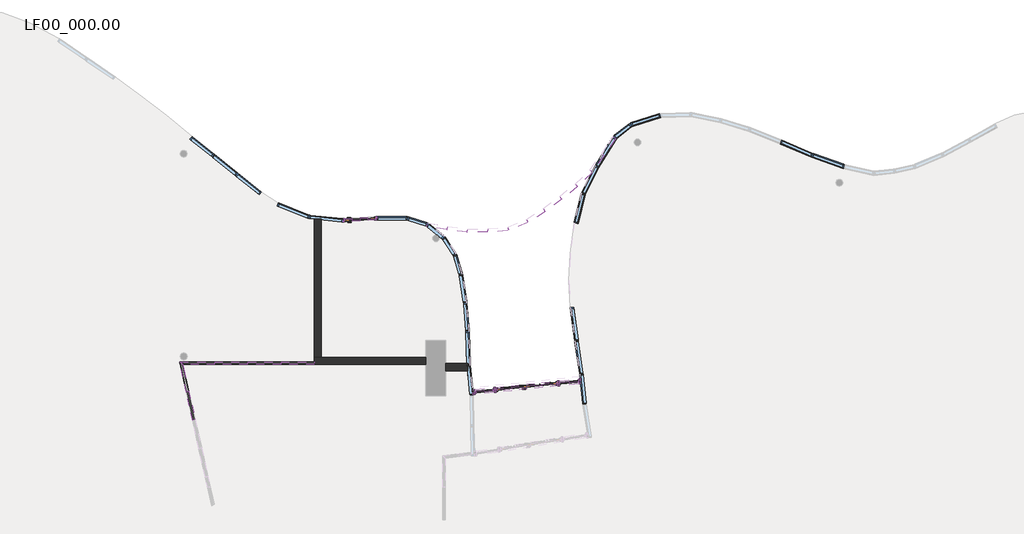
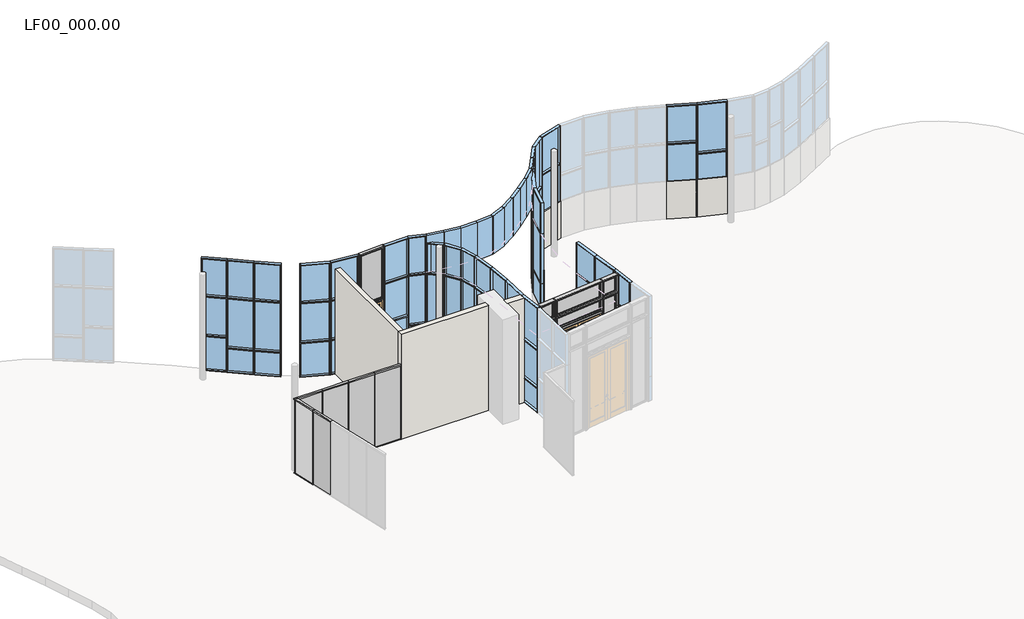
# One storey, part 5 of 8: 43 members, 35 windows, 12 plates, 10 walls, 2 doors.
"""IFC4 building model written with IfcOpenShell, lengths in millimetres."""

from ifc_helpers import new_model, si_unit, origin, origin_with_axes, place, context, project, spatial, polyline, outline, extrude, faceted_brep, transform, mapped, element, save
from components import door_f6d3ca97, al_005_3a442bcf, montante_rettangolare_ac_010x003_4d17a41f, montante_rettangolare_ac_010x003_0dd7de21, montante_rettangolare_ac_010x003_1eb318b9, montante_rettangolare_ac_010x003_ccebbbc4, montante_rettangolare_ac_025x025_ae409ff8, montante_rettangolare_ac_025x025_ba0b5886, montante_rettangolare_ac_025x025_25a4d1a1, montante_rettangolare_ac_025x025_28f09506, montante_rettangolare_ac_025x025_21ed5f5e, montante_rettangolare_ac_025x025_512be482, montante_rettangolare_ac_025x025_d0ddf7e4, montante_rettangolare_ac_025x025_b97b00cb, montante_rettangolare_ac_025x025_7ee202ef, montante_rettangolare_ac_080x010_f14e0e64, montante_rettangolare_ac_080x020_3b7735f9, montante_rettangolare_ac_080x020_327cfd7e, montante_rettangolare_ac_080x020_cddab958, montante_rettangolare_ac_080x050_642f358e, montante_rettangolare_ac_080x050_9c7f8e0c, montante_rettangolare_ac_080x050_c9e07f6a, montante_rettangolare_ac_080x050_cf15316b, al_005_716bf069, al_005_105dd437, al_005_4a535399, al_005_ec5b3190, ve3_036_89044f45, ve3_036_c4dd61af, ve3_036_04a157bd, ve_005_f4ff7d61, ve_005_494df69b, ve_005_5d872f8a, window_1ea6608f, window_a39038a6, window_40431090, window_a7bb458b, window_edb831b2, window_d7734fc0, window_8cf16216, window_26246464, window_36c3ef3e, window_04857959, window_b5501017, window_13306c7d, window_54e6ce9d, window_09fc64a4, window_a744d560, window_dc9eccbe, al_60_92c340f7

model = new_model("IFC4")

# Units and contexts
model_context = context("Model", 3, world=origin())
ifc_project = project(units=[si_unit("LENGTHUNIT", "METRE", prefix="MILLI")], contexts=[model_context])

# Site, building, storey
site = spatial("IfcSite", under=ifc_project)
building = spatial("IfcBuilding", under=site)
storey = spatial("IfcBuildingStorey", under=building, Name="LF00_000.00", Elevation=0.0)

# Doors
placement = place(None, origin())
door_shape = door_f6d3ca97(model_context)
element("IfcDoor", 1, ObjectType="TRP_CP_ARC_PO_2B_PM : AL_VE_005", at=placement, inside=storey, context=model_context, shape_type="MappedRepresentation", body=[
    mapped(door_shape, transform((-83822.5384206, 16644.1727455, 0.0), x_axis=(-0.9946610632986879, -0.10319578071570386, 0.0), y_axis=(0.10319578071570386, -0.9946610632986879, 0.0), z_axis=(0.0, 0.0, 1.0))),
])
al_005_shape = al_005_3a442bcf(model_context)
element("IfcDoor", 2, ObjectType="TRP_CP_ARC_PO_1B_RE : AL_005", at=placement, inside=storey, context=model_context, shape_type="MappedRepresentation", body=[
    mapped(al_005_shape, transform((-88781.3569263, 21621.7366248, 0.0), x_axis=(0.9981772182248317, 0.060350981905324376, 0.0), y_axis=(-0.060350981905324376, 0.9981772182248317, 0.0), z_axis=(0.0, 0.0, 1.0))),
])

# Members
montante_rettangolare_ac_010x003_shape = montante_rettangolare_ac_010x003_4d17a41f(model_context)
element("IfcMember", 3, ObjectType="Montante rettangolare : AC_010x003", at=placement, inside=storey, context=model_context, shape_type="MappedRepresentation", body=[
    mapped(montante_rettangolare_ac_010x003_shape, transform((-88280.7600206, 21652.0033091, 2400.0), x_axis=(0.9981772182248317, 0.060350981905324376, 0.0), y_axis=(0.060350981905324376, -0.9981772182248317, 0.0), z_axis=(0.0, 0.0, -1.0))),
])
element("IfcMember", 4, ObjectType="Montante rettangolare : AC_010x003", at=placement, inside=storey, context=model_context, shape_type="MappedRepresentation", body=[
    mapped(montante_rettangolare_ac_010x003_shape, transform((-89281.9538321, 21591.4699404, 4500.0), x_axis=(-0.9981772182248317, -0.060350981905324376, 0.0), y_axis=(0.060350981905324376, -0.9981772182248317, 0.0), z_axis=(0.0, 0.0, 1.0))),
])
montante_rettangolare_ac_010x003_2_shape = montante_rettangolare_ac_010x003_0dd7de21(model_context)
element("IfcMember", 5, ObjectType="Montante rettangolare : AC_010x003", at=placement, inside=storey, context=model_context, shape_type="MappedRepresentation", body=[
    mapped(montante_rettangolare_ac_010x003_2_shape, transform((-88313.6998688, 21650.0117267, 4500.0), x_axis=(0.0, 0.0, 1.0), y_axis=(0.060350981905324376, -0.9981772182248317, 0.0), z_axis=(0.9981772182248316, 0.06035098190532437, 0.0))),
])
montante_rettangolare_ac_010x003_3_shape = montante_rettangolare_ac_010x003_1eb318b9(model_context)
element("IfcMember", 6, ObjectType="Montante rettangolare : AC_010x003", at=placement, inside=storey, context=model_context, shape_type="MappedRepresentation", body=[
    mapped(montante_rettangolare_ac_010x003_3_shape, transform((-88313.6998688, 21650.0117267, 2400.0), x_axis=(0.0, 0.0, 1.0), y_axis=(0.060350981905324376, -0.9981772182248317, 0.0), z_axis=(0.9981772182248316, 0.06035098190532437, 0.0))),
])
montante_rettangolare_ac_010x003_4_shape = montante_rettangolare_ac_010x003_ccebbbc4(model_context)
element("IfcMember", 7, ObjectType="Montante rettangolare : AC_010x003", at=placement, inside=storey, context=model_context, shape_type="MappedRepresentation", body=[
    mapped(montante_rettangolare_ac_010x003_4_shape, transform((-88280.7600206, 21652.0033091, 0.0), x_axis=(0.9981772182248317, 0.060350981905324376, 0.0), y_axis=(0.060350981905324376, -0.9981772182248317, 0.0), z_axis=(0.0, 0.0, -1.0))),
])
element("IfcMember", 8, ObjectType="Montante rettangolare : AC_010x003", at=placement, inside=storey, context=model_context, shape_type="MappedRepresentation", body=[
    mapped(montante_rettangolare_ac_010x003_4_shape, transform((-89281.9538321, 21591.4699404, 2400.0), x_axis=(-0.9981772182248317, -0.060350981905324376, 0.0), y_axis=(0.060350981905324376, -0.9981772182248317, 0.0), z_axis=(0.0, 0.0, 1.0))),
])
montante_rettangolare_ac_025x025_shape = montante_rettangolare_ac_025x025_ae409ff8(model_context)
element("IfcMember", 9, ObjectType="Montante rettangolare : AC_025x025", at=placement, inside=storey, context=model_context, shape_type="MappedRepresentation", body=[
    mapped(montante_rettangolare_ac_025x025_shape, transform((-82226.0252982, 16809.8104931, 4199.970898), x_axis=(0.9946610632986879, 0.10319578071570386, 0.0), y_axis=(-0.10319578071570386, 0.9946610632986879, 0.0), z_axis=(0.0, 0.0, 1.0))),
])
element("IfcMember", 10, ObjectType="Montante rettangolare : AC_025x025", at=placement, inside=storey, context=model_context, shape_type="MappedRepresentation", body=[
    mapped(montante_rettangolare_ac_025x025_shape, transform((-85418.9694272, 16478.5435175, 3500.0), x_axis=(-0.9946610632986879, -0.10319578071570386, 0.0), y_axis=(-0.10319578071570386, 0.9946610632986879, 0.0), z_axis=(0.0, 0.0, -1.0))),
])
montante_rettangolare_ac_025x025_2_shape = montante_rettangolare_ac_025x025_ba0b5886(model_context)
element("IfcMember", 11, ObjectType="Montante rettangolare : AC_025x025", at=placement, inside=storey, context=model_context, shape_type="MappedRepresentation", body=[
    mapped(montante_rettangolare_ac_025x025_2_shape, transform((-82877.6104105, 16742.2087372, 3500.0), x_axis=(-0.9946610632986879, -0.10319578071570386, 0.0), y_axis=(-0.10319578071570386, 0.9946610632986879, 0.0), z_axis=(0.0, 0.0, -1.0))),
])
element("IfcMember", 12, ObjectType="Montante rettangolare : AC_025x025", at=placement, inside=storey, context=model_context, shape_type="MappedRepresentation", body=[
    mapped(montante_rettangolare_ac_025x025_2_shape, transform((-84767.4664308, 16546.1367539, 3500.0), x_axis=(-0.9946610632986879, -0.10319578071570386, 0.0), y_axis=(-0.10319578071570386, 0.9946610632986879, 0.0), z_axis=(0.0, 0.0, -1.0))),
])
montante_rettangolare_ac_025x025_3_shape = montante_rettangolare_ac_025x025_25a4d1a1(model_context)
element("IfcMember", 13, ObjectType="Montante rettangolare : AC_025x025", at=placement, inside=storey, context=model_context, shape_type="MappedRepresentation", body=[
    mapped(montante_rettangolare_ac_025x025_3_shape, transform((-84742.5999042, 16548.7166484, 3500.0), x_axis=(0.0, 0.0, 1.0), y_axis=(-0.10319578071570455, 0.9946610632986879, 0.0), z_axis=(-0.9946610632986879, -0.10319578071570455, 0.0))),
])
element("IfcMember", 14, ObjectType="Montante rettangolare : AC_025x025", at=placement, inside=storey, context=model_context, shape_type="MappedRepresentation", body=[
    mapped(montante_rettangolare_ac_025x025_3_shape, transform((-84742.5999042, 16548.7166484, 4199.970898), x_axis=(0.0, 0.0, 1.0), y_axis=(-0.10319578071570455, 0.9946610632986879, 0.0), z_axis=(-0.9946610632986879, -0.10319578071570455, 0.0))),
])
montante_rettangolare_ac_025x025_4_shape = montante_rettangolare_ac_025x025_28f09506(model_context)
element("IfcMember", 15, ObjectType="Montante rettangolare : AC_025x025", at=placement, inside=storey, context=model_context, shape_type="MappedRepresentation", body=[
    mapped(montante_rettangolare_ac_025x025_4_shape, transform((-84742.5999042, 16548.7166484, 2962.0), x_axis=(0.0, 0.0, 1.0), y_axis=(-0.10319578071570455, 0.9946610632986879, 0.0), z_axis=(-0.9946610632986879, -0.10319578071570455, 0.0))),
])
montante_rettangolare_ac_025x025_5_shape = montante_rettangolare_ac_025x025_21ed5f5e(model_context)
element("IfcMember", 16, ObjectType="Montante rettangolare : AC_025x025", at=placement, inside=storey, context=model_context, shape_type="MappedRepresentation", body=[
    mapped(montante_rettangolare_ac_025x025_5_shape, transform((-82226.0252982, 16809.8104931, 3500.0), x_axis=(0.9946610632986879, 0.10319578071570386, 0.0), y_axis=(-0.10319578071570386, 0.9946610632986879, 0.0), z_axis=(0.0, 0.0, 1.0))),
])
element("IfcMember", 17, ObjectType="Montante rettangolare : AC_025x025", at=placement, inside=storey, context=model_context, shape_type="MappedRepresentation", body=[
    mapped(montante_rettangolare_ac_025x025_5_shape, transform((-85418.9694272, 16478.5435175, 2962.0), x_axis=(-0.9946610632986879, -0.10319578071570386, 0.0), y_axis=(-0.10319578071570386, 0.9946610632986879, 0.0), z_axis=(0.0, 0.0, -1.0))),
])
montante_rettangolare_ac_025x025_6_shape = montante_rettangolare_ac_025x025_512be482(model_context)
element("IfcMember", 18, ObjectType="Montante rettangolare : AC_025x025", at=placement, inside=storey, context=model_context, shape_type="MappedRepresentation", body=[
    mapped(montante_rettangolare_ac_025x025_6_shape, transform((-82877.6104105, 16742.2087372, 2962.0), x_axis=(-0.9946610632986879, -0.10319578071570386, 0.0), y_axis=(-0.10319578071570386, 0.9946610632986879, 0.0), z_axis=(0.0, 0.0, -1.0))),
])
element("IfcMember", 19, ObjectType="Montante rettangolare : AC_025x025", at=placement, inside=storey, context=model_context, shape_type="MappedRepresentation", body=[
    mapped(montante_rettangolare_ac_025x025_6_shape, transform((-84767.4664308, 16546.1367539, 2962.0), x_axis=(-0.9946610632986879, -0.10319578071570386, 0.0), y_axis=(-0.10319578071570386, 0.9946610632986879, 0.0), z_axis=(0.0, 0.0, -1.0))),
])
montante_rettangolare_ac_025x025_7_shape = montante_rettangolare_ac_025x025_d0ddf7e4(model_context)
element("IfcMember", 20, ObjectType="Montante rettangolare : AC_025x025", at=placement, inside=storey, context=model_context, shape_type="MappedRepresentation", body=[
    mapped(montante_rettangolare_ac_025x025_7_shape, transform((-82877.6104105, 16742.2087372, 0.0), x_axis=(-0.9946610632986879, -0.10319578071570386, 0.0), y_axis=(-0.10319578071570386, 0.9946610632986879, 0.0), z_axis=(0.0, 0.0, -1.0))),
])
element("IfcMember", 21, ObjectType="Montante rettangolare : AC_025x025", at=placement, inside=storey, context=model_context, shape_type="MappedRepresentation", body=[
    mapped(montante_rettangolare_ac_025x025_7_shape, transform((-84767.4664308, 16546.1367539, 0.0), x_axis=(-0.9946610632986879, -0.10319578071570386, 0.0), y_axis=(-0.10319578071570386, 0.9946610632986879, 0.0), z_axis=(0.0, 0.0, -1.0))),
])
montante_rettangolare_ac_025x025_8_shape = montante_rettangolare_ac_025x025_b97b00cb(model_context)
element("IfcMember", 22, ObjectType="Montante rettangolare : AC_025x025", at=placement, inside=storey, context=model_context, shape_type="MappedRepresentation", body=[
    mapped(montante_rettangolare_ac_025x025_8_shape, transform((-85418.9694272, 16478.5435175, 0.0), x_axis=(-0.9946610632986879, -0.10319578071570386, 0.0), y_axis=(-0.10319578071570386, 0.9946610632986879, 0.0), z_axis=(0.0, 0.0, -1.0))),
])
element("IfcMember", 23, ObjectType="Montante rettangolare : AC_025x025", at=placement, inside=storey, context=model_context, shape_type="MappedRepresentation", body=[
    mapped(montante_rettangolare_ac_025x025_8_shape, transform((-82226.0252982, 16809.8104931, 2962.0), x_axis=(0.9946610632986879, 0.10319578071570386, 0.0), y_axis=(-0.10319578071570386, 0.9946610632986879, 0.0), z_axis=(0.0, 0.0, 1.0))),
])
montante_rettangolare_ac_025x025_9_shape = montante_rettangolare_ac_025x025_7ee202ef(model_context)
element("IfcMember", 24, ObjectType="Montante rettangolare : AC_025x025", at=placement, inside=storey, context=model_context, shape_type="MappedRepresentation", body=[
    mapped(montante_rettangolare_ac_025x025_9_shape, transform((-85369.2363741, 16483.7033065, 3500.0), x_axis=(0.0, 0.0, 1.0), y_axis=(-0.10319578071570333, 0.994661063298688, 0.0), z_axis=(-0.9946610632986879, -0.10319578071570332, 0.0))),
])
element("IfcMember", 25, ObjectType="Montante rettangolare : AC_025x025", at=placement, inside=storey, context=model_context, shape_type="MappedRepresentation", body=[
    mapped(montante_rettangolare_ac_025x025_9_shape, transform((-82852.7438839, 16744.7886317, 3500.0), x_axis=(0.0, 0.0, 1.0), y_axis=(-0.10319578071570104, 0.9946610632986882, 0.0), z_axis=(-0.9946610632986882, -0.10319578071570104, 0.0))),
])
element("IfcMember", 26, ObjectType="Montante rettangolare : AC_025x025", at=placement, inside=storey, context=model_context, shape_type="MappedRepresentation", body=[
    mapped(montante_rettangolare_ac_025x025_9_shape, transform((-82852.7438839, 16744.7886317, 4199.970898), x_axis=(0.0, 0.0, 1.0), y_axis=(-0.10319578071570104, 0.9946610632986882, 0.0), z_axis=(-0.9946610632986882, -0.10319578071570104, 0.0))),
])
element("IfcMember", 27, ObjectType="Montante rettangolare : AC_025x025", at=placement, inside=storey, context=model_context, shape_type="MappedRepresentation", body=[
    mapped(montante_rettangolare_ac_025x025_9_shape, transform((-85369.2363741, 16483.7033065, 4199.970898), x_axis=(0.0, 0.0, 1.0), y_axis=(-0.10319578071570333, 0.994661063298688, 0.0), z_axis=(-0.9946610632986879, -0.10319578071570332, 0.0))),
])
montante_rettangolare_ac_080x010_shape = montante_rettangolare_ac_080x010_f14e0e64(model_context)
element("IfcMember", 28, ObjectType="Montante rettangolare : AC_080x010", at=placement, inside=storey, context=model_context, shape_type="MappedRepresentation", body=[
    mapped(montante_rettangolare_ac_080x010_shape, transform((-93911.9608946, 16498.2110888, 20.0), x_axis=(-0.217166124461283, 0.9761346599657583, 0.0), y_axis=(0.9761346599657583, 0.217166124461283, 0.0), z_axis=(0.0, 0.0, -1.0))),
])
element("IfcMember", 29, ObjectType="Montante rettangolare : AC_080x010", at=placement, inside=storey, context=model_context, shape_type="MappedRepresentation", body=[
    mapped(montante_rettangolare_ac_080x010_shape, transform((-91130.0765904, 17346.5051331, 20.0), x_axis=(1.0, 0.0, 0.0), y_axis=(0.0, -1.0, 0.0), z_axis=(0.0, 0.0, -1.0))),
])
element("IfcMember", 30, ObjectType="Montante rettangolare : AC_080x010", at=placement, inside=storey, context=model_context, shape_type="MappedRepresentation", body=[
    mapped(montante_rettangolare_ac_080x010_shape, transform((-92120.279595, 17346.5051331, 20.0), x_axis=(1.0, 0.0, 0.0), y_axis=(0.0, -1.0, 0.0), z_axis=(0.0, 0.0, -1.0))),
])
element("IfcMember", 31, ObjectType="Montante rettangolare : AC_080x010", at=placement, inside=storey, context=model_context, shape_type="MappedRepresentation", body=[
    mapped(montante_rettangolare_ac_080x010_shape, transform((-93110.4825995, 17346.5051331, 20.0), x_axis=(1.0, 0.0, 0.0), y_axis=(0.0, -1.0, 0.0), z_axis=(0.0, 0.0, -1.0))),
])
element("IfcMember", 32, ObjectType="Montante rettangolare : AC_080x010", at=placement, inside=storey, context=model_context, shape_type="MappedRepresentation", body=[
    mapped(montante_rettangolare_ac_080x010_shape, transform((-94100.685604, 17346.5051331, 20.0), x_axis=(-0.217166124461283, 0.9761346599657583, 0.0), y_axis=(0.9761346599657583, 0.217166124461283, 0.0), z_axis=(0.0, 0.0, -1.0))),
])
element("IfcMember", 33, ObjectType="Montante rettangolare : AC_080x010", at=placement, inside=storey, context=model_context, shape_type="MappedRepresentation", body=[
    mapped(montante_rettangolare_ac_080x010_shape, transform((-90139.8735859, 17346.5051331, 20.0), x_axis=(1.0, 0.0, 0.0), y_axis=(0.0, -1.0, 0.0), z_axis=(0.0, 0.0, -1.0))),
])
element("IfcMember", 34, ObjectType="Montante rettangolare : AC_080x010", at=placement, inside=storey, context=model_context, shape_type="MappedRepresentation", body=[
    mapped(montante_rettangolare_ac_080x010_shape, transform((-94100.685604, 17346.5051331, 2950.0), x_axis=(-1.0, 0.0, 0.0), y_axis=(0.0, -1.0, 0.0), z_axis=(0.0, 0.0, 1.0))),
])
montante_rettangolare_ac_080x020_shape = montante_rettangolare_ac_080x020_3b7735f9(model_context)
element("IfcMember", 35, ObjectType="Montante rettangolare : AC_080x020", at=placement, inside=storey, context=model_context, shape_type="MappedRepresentation", body=[
    mapped(montante_rettangolare_ac_080x020_shape, transform((-93911.9608946, 16498.2110888, 0.0), x_axis=(0.0, 0.0, -1.0), y_axis=(0.9761346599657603, 0.21716612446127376, 0.0), z_axis=(0.21716612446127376, -0.9761346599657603, 0.0))),
])
montante_rettangolare_ac_080x020_2_shape = montante_rettangolare_ac_080x020_327cfd7e(model_context)
element("IfcMember", 36, ObjectType="Montante rettangolare : AC_080x020", at=placement, inside=storey, context=model_context, shape_type="MappedRepresentation", body=[
    mapped(montante_rettangolare_ac_080x020_2_shape, transform((-94100.685604, 17346.5051331, 0.0), x_axis=(0.0, 0.0, -1.0), y_axis=(0.0, -1.0, 0.0), z_axis=(-1.0, 0.0, 0.0))),
])
montante_rettangolare_ac_080x020_3_shape = montante_rettangolare_ac_080x020_cddab958(model_context)
element("IfcMember", 37, ObjectType="Montante rettangolare : AC_080x020", at=placement, inside=storey, context=model_context, shape_type="MappedRepresentation", body=[
    mapped(montante_rettangolare_ac_080x020_3_shape, transform((-93110.4825995, 17346.5051331, 0.0), x_axis=(0.0, 0.0, -1.0), y_axis=(0.0, -1.0, 0.0), z_axis=(-1.0, 0.0, 0.0))),
])
element("IfcMember", 38, ObjectType="Montante rettangolare : AC_080x020", at=placement, inside=storey, context=model_context, shape_type="MappedRepresentation", body=[
    mapped(montante_rettangolare_ac_080x020_3_shape, transform((-92120.279595, 17346.5051331, 0.0), x_axis=(0.0, 0.0, -1.0), y_axis=(0.0, -1.0, 0.0), z_axis=(-1.0, 0.0, 0.0))),
])
element("IfcMember", 39, ObjectType="Montante rettangolare : AC_080x020", at=placement, inside=storey, context=model_context, shape_type="MappedRepresentation", body=[
    mapped(montante_rettangolare_ac_080x020_3_shape, transform((-91130.0765904, 17346.5051331, 0.0), x_axis=(0.0, 0.0, -1.0), y_axis=(0.0, -1.0, 0.0), z_axis=(-1.0, 0.0, 0.0))),
])
montante_rettangolare_ac_080x050_shape = montante_rettangolare_ac_080x050_642f358e(model_context)
element("IfcMember", 40, ObjectType="Montante rettangolare : AC_080x050", at=placement, inside=storey, context=model_context, shape_type="MappedRepresentation", body=[
    mapped(montante_rettangolare_ac_080x050_shape, transform((-93911.9608946, 16498.2110888, 3000.0), x_axis=(0.0, 0.0, 1.0), y_axis=(0.9761346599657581, 0.21716612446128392, 0.0), z_axis=(-0.2171661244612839, 0.976134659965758, 0.0))),
])
montante_rettangolare_ac_080x050_2_shape = montante_rettangolare_ac_080x050_9c7f8e0c(model_context)
element("IfcMember", 41, ObjectType="Montante rettangolare : AC_080x050", at=placement, inside=storey, context=model_context, shape_type="MappedRepresentation", body=[
    mapped(montante_rettangolare_ac_080x050_2_shape, transform((-90139.8735859, 17346.5051331, 3000.0), x_axis=(0.0, 0.0, 1.0), y_axis=(0.0, -1.0, 0.0), z_axis=(1.0, 0.0, 0.0))),
])
element("IfcMember", 42, ObjectType="Montante rettangolare : AC_080x050", at=placement, inside=storey, context=model_context, shape_type="MappedRepresentation", body=[
    mapped(montante_rettangolare_ac_080x050_2_shape, transform((-92120.279595, 17346.5051331, 3000.0), x_axis=(0.0, 0.0, 1.0), y_axis=(0.0, -1.0, 0.0), z_axis=(1.0, 0.0, 0.0))),
])
element("IfcMember", 43, ObjectType="Montante rettangolare : AC_080x050", at=placement, inside=storey, context=model_context, shape_type="MappedRepresentation", body=[
    mapped(montante_rettangolare_ac_080x050_2_shape, transform((-91130.0765904, 17346.5051331, 3000.0), x_axis=(0.0, 0.0, 1.0), y_axis=(0.0, -1.0, 0.0), z_axis=(1.0, 0.0, 0.0))),
])
montante_rettangolare_ac_080x050_3_shape = montante_rettangolare_ac_080x050_c9e07f6a(model_context)
element("IfcMember", 44, ObjectType="Montante rettangolare : AC_080x050", at=placement, inside=storey, context=model_context, shape_type="MappedRepresentation", body=[
    mapped(montante_rettangolare_ac_080x050_3_shape, transform((-93110.4825995, 17346.5051331, 3000.0), x_axis=(0.0, 0.0, 1.0), y_axis=(0.0, -1.0, 0.0), z_axis=(1.0, 0.0, 0.0))),
])
montante_rettangolare_ac_080x050_4_shape = montante_rettangolare_ac_080x050_cf15316b(model_context)
element("IfcMember", 45, ObjectType="Montante rettangolare : AC_080x050", at=placement, inside=storey, context=model_context, shape_type="MappedRepresentation", body=[
    mapped(montante_rettangolare_ac_080x050_4_shape, transform((-94100.685604, 17346.5051331, 3000.0), x_axis=(0.0, 0.0, 1.0), y_axis=(0.9761346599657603, 0.21716612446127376, 0.0), z_axis=(-0.21716612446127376, 0.9761346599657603, 0.0))),
])

# Plates
al_005_2_shape = al_005_716bf069(model_context)
element("IfcPlate", 46, ObjectType="TRP_CP_ARC_PF_RE : AL_005", at=placement, inside=storey, context=model_context, shape_type="MappedRepresentation", body=[
    mapped(al_005_2_shape, transform((-83822.5384206, 16644.1727455, 3500.0), x_axis=(-0.9946610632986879, -0.10319578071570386, 0.0), y_axis=(0.10319578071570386, -0.9946610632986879, 0.0), z_axis=(0.0, 0.0, 1.0))),
])
al_005_3_shape = al_005_105dd437(model_context)
element("IfcPlate", 47, ObjectType="TRP_CP_ARC_PF_RE : AL_005", at=placement, inside=storey, context=model_context, shape_type="MappedRepresentation", body=[
    mapped(al_005_3_shape, transform((-82564.2511176, 16774.7196679, 3500.0), x_axis=(-0.9946610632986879, -0.10319578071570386, 0.0), y_axis=(0.10319578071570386, -0.9946610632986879, 0.0), z_axis=(0.0, 0.0, 1.0))),
])
al_005_4_shape = al_005_4a535399(model_context)
element("IfcPlate", 48, ObjectType="TRP_CP_ARC_PF_RE : AL_005", at=placement, inside=storey, context=model_context, shape_type="MappedRepresentation", body=[
    mapped(al_005_4_shape, transform((-85080.7846657, 16513.6300829, 3500.0), x_axis=(-0.9946610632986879, -0.10319578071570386, 0.0), y_axis=(0.10319578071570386, -0.9946610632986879, 0.0), z_axis=(0.0, 0.0, 1.0))),
])
al_005_5_shape = al_005_ec5b3190(model_context)
element("IfcPlate", 49, ObjectType="TRP_CP_ARC_PF_RE : AL_005", at=placement, inside=storey, context=model_context, shape_type="MappedRepresentation", body=[
    mapped(al_005_5_shape, transform((-88781.3569263, 21621.7366248, 2403.0), x_axis=(0.9981772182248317, 0.060350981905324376, 0.0), y_axis=(-0.060350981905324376, 0.9981772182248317, 0.0), z_axis=(0.0, 0.0, 1.0))),
])
ve3_036_shape = ve3_036_89044f45(model_context)
element("IfcPlate", 50, ObjectType="TRP_CP_ARC_PF_RE_SE : VE3_036", at=placement, inside=storey, context=model_context, shape_type="MappedRepresentation", body=[
    mapped(ve3_036_shape, transform((-93816.8421321, 16070.6641077, 20.0), x_axis=(-0.217166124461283, 0.9761346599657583, 0.0), y_axis=(-0.9761346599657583, -0.217166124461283, 0.0), z_axis=(0.0, 0.0, 1.0))),
])
ve3_036_2_shape = ve3_036_c4dd61af(model_context)
element("IfcPlate", 51, ObjectType="TRP_CP_ARC_PF_RE_SE : VE3_036", at=placement, inside=storey, context=model_context, shape_type="MappedRepresentation", body=[
    mapped(ve3_036_2_shape, transform((-90639.9750882, 17346.5051331, 20.0), x_axis=(1.0, 0.0, 0.0), y_axis=(0.0, 1.0, 0.0), z_axis=(0.0, 0.0, 1.0))),
])
element("IfcPlate", 52, ObjectType="TRP_CP_ARC_PF_RE_SE : VE3_036", at=placement, inside=storey, context=model_context, shape_type="MappedRepresentation", body=[
    mapped(ve3_036_2_shape, transform((-91630.1780927, 17346.5051331, 20.0), x_axis=(1.0, 0.0, 0.0), y_axis=(0.0, 1.0, 0.0), z_axis=(0.0, 0.0, 1.0))),
])
element("IfcPlate", 53, ObjectType="TRP_CP_ARC_PF_RE_SE : VE3_036", at=placement, inside=storey, context=model_context, shape_type="MappedRepresentation", body=[
    mapped(ve3_036_2_shape, transform((-92620.3810972, 17346.5051331, 20.0), x_axis=(1.0, 0.0, 0.0), y_axis=(0.0, 1.0, 0.0), z_axis=(0.0, 0.0, 1.0))),
])
ve3_036_3_shape = ve3_036_04a157bd(model_context)
element("IfcPlate", 54, ObjectType="TRP_CP_ARC_PF_RE_SE : VE3_036", at=placement, inside=storey, context=model_context, shape_type="MappedRepresentation", body=[
    mapped(ve3_036_3_shape, transform((-93605.5841017, 17346.5051331, 20.0), x_axis=(1.0, 0.0, 0.0), y_axis=(0.0, 1.0, 0.0), z_axis=(0.0, 0.0, 1.0))),
])
ve_005_shape = ve_005_f4ff7d61(model_context)
element("IfcPlate", 55, ObjectType="TRP_CP_ARC_PF_RE : VE_005", at=placement, inside=storey, context=model_context, shape_type="MappedRepresentation", body=[
    mapped(ve_005_shape, transform((-83822.5384206, 16644.1727455, 2987.0), x_axis=(-0.9946610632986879, -0.10319578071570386, 0.0), y_axis=(0.10319578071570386, -0.9946610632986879, 0.0), z_axis=(0.0, 0.0, 1.0))),
])
ve_005_2_shape = ve_005_494df69b(model_context)
element("IfcPlate", 56, ObjectType="TRP_CP_ARC_PF_RE : VE_005", at=placement, inside=storey, context=model_context, shape_type="MappedRepresentation", body=[
    mapped(ve_005_2_shape, transform((-85080.7846657, 16513.6300829, 0.0), x_axis=(-0.9946610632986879, -0.10319578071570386, 0.0), y_axis=(0.10319578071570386, -0.9946610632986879, 0.0), z_axis=(0.0, 0.0, 1.0))),
])
ve_005_3_shape = ve_005_5d872f8a(model_context)
element("IfcPlate", 57, ObjectType="TRP_CP_ARC_PF_RE : VE_005", at=placement, inside=storey, context=model_context, shape_type="MappedRepresentation", body=[
    mapped(ve_005_3_shape, transform((-82564.2511176, 16774.7196679, 0.0), x_axis=(-0.9946610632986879, -0.10319578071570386, 0.0), y_axis=(0.10319578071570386, -0.9946610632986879, 0.0), z_axis=(0.0, 0.0, 1.0))),
])

# Walls
element("IfcWall", 58, ObjectType="CG_003_ND", at=placement, inside=storey, context=model_context, shape_type="SweptSolid", body=[
    extrude(outline(polyline([(-82319.0814048, 21498.2833208), (-82101.8618469, 22373.6085869), (-82078.2640468, 22364.9025279), (-82294.8173662, 21492.2619892), (-82319.0814048, 21498.2833208)])), origin_with_axes(), (0.0, 0.0, 1.0), 1500.0),
])
element("IfcWall", 59, ObjectType="CG_003_ND", at=placement, inside=storey, context=model_context, shape_type="SweptSolid", body=[
    extrude(outline(polyline([(-82101.8618469, 22373.6085869), (-81701.3080167, 23174.7292545), (-81679.4274152, 23162.5887424), (-82078.2640468, 22364.9025279), (-82101.8618469, 22373.6085869)])), origin_with_axes(), (0.0, 0.0, 1.0), 1500.0),
])
element("IfcWall", 60, ObjectType="CG_003_ND", at=placement, inside=storey, context=model_context, shape_type="Brep", body=[
    faceted_brep([(-81179.0629001, 24027.5246802, 0.0), (-81701.3080167, 23174.7292545, 0.0), (-81701.3080167, 23174.7292545, 1500.0), (-81179.0629001, 24027.5246802, 1500.0), (-81122.5919455, 24071.8681715, 0.0), (-81122.5919455, 24071.8681715, 1500.0), (-81160.0894137, 24010.6370209, 1500.0), (-81679.4274152, 23162.5887424, 1500.0), (-81679.4274152, 23162.5887424, 0.0), (-81160.0894137, 24010.6370209, 0.0)], [[[0, 1, 2, 3]], [[4, 5, 6, 7, 8, 9]], [[1, 0, 4, 9, 8]], [[3, 2, 7, 6, 5]], [[0, 3, 5, 4]], [[2, 1, 8, 7]]]),
])
element("IfcWall", 61, ObjectType="CG_003_ND", at=placement, inside=storey, context=model_context, shape_type="Brep", body=[
    faceted_brep([(-80703.2316667, 24401.1684107, 0.0), (-81122.5919455, 24071.8681715, 0.0), (-81122.5919455, 24071.8681715, 1500.0), (-80703.2316667, 24401.1684107, 1500.0), (-80635.199518, 24422.8037829, 0.0), (-80635.199518, 24422.8037829, 1500.0), (-80691.3472206, 24378.7141234, 1500.0), (-81160.0894137, 24010.6370209, 1500.0), (-81160.0894137, 24010.6370209, 0.0), (-80691.3472206, 24378.7141234, 0.0)], [[[0, 1, 2, 3]], [[4, 5, 6, 7, 8, 9]], [[1, 0, 4, 9, 8]], [[3, 2, 7, 6, 5]], [[2, 1, 8, 7]], [[0, 3, 5, 4]]]),
])
element("IfcWall", 62, ObjectType="CG_003_ND", at=placement, inside=storey, context=model_context, shape_type="SweptSolid", body=[
    extrude(outline(polyline([(-80635.199518, 24422.8037829), (-79845.5576032, 24673.9232471), (-79841.3086137, 24649.0407556), (-80691.3472206, 24378.7141234), (-80635.199518, 24422.8037829)])), origin_with_axes(), (0.0, 0.0, 1.0), 1500.0),
])
element("IfcWall", 63, ObjectType="CG_003_ND", at=placement, inside=storey, context=model_context, shape_type="SweptSolid", body=[
    extrude(outline(polyline([(-76274.5648628, 23888.8568068), (-75352.750051, 23492.9320554), (-75361.8709382, 23469.6411296), (-76284.1409712, 23865.7614012), (-76274.5648628, 23888.8568068)])), origin_with_axes(), (0.0, 0.0, 1.0), 1500.0),
])
element("IfcWall", 64, ObjectType="CG_003_ND", at=placement, inside=storey, context=model_context, shape_type="SweptSolid", body=[
    extrude(outline(polyline([(-75352.750051, 23492.9320554), (-74401.5995982, 23155.5980325), (-74408.5531539, 23131.5384431), (-75361.8709382, 23469.6411296), (-75352.750051, 23492.9320554)])), origin_with_axes(), (0.0, 0.0, 1.0), 1500.0),
])
element("IfcWall", 65, ObjectType="T11", at=placement, inside=storey, context=model_context, shape_type="SweptSolid", body=[
    extrude(outline(polyline([(-90139.8735859, 17506.2300972), (-90139.8735859, 21636.5051331), (-89939.8735859, 21636.5051331), (-89939.8735859, 17506.2300972), (-90139.8735859, 17506.2300972)])), origin_with_axes(), (0.0, 0.0, 1.0), 4200.0),
])
element("IfcWall", 66, ObjectType="T11", at=placement, inside=storey, context=model_context, shape_type="Brep", body=[
    faceted_brep([(-90139.8735859, 17306.2300972, 0.0), (-86826.4249031, 17306.2300972, 0.0), (-86826.4249031, 17306.2300972, 4200.0), (-90139.8735859, 17306.2300972, 4200.0), (-90139.8735859, 17506.2300972, 0.0), (-90139.8735859, 17506.2300972, 4200.0), (-89939.8735859, 17506.2300972, 4200.0), (-86826.4249031, 17506.2300972, 4200.0), (-86826.4249031, 17506.2300972, 0.0), (-89939.8735859, 17506.2300972, 0.0)], [[[0, 1, 2, 3]], [[4, 5, 6, 7, 8, 9]], [[1, 0, 4, 9, 8]], [[2, 1, 8, 7]], [[3, 2, 7, 6, 5]], [[0, 3, 5, 4]]]),
])
element("IfcWall", 67, ObjectType="T9", at=placement, inside=storey, context=model_context, shape_type="SweptSolid", body=[
    extrude(outline(polyline([(-85581.7057657, 17105.2052651), (-86226.7057657, 17105.2052651), (-86226.7057657, 17335.2052651), (-85581.7057657, 17335.2052651), (-85581.7057657, 17105.2052651)])), origin_with_axes(), (0.0, 0.0, 1.0), 4200.0),
])

# Windows
window_shape = window_1ea6608f(model_context)
element("IfcWindow", 68, ObjectType="TRP_CP_ARC_FI_V1 : AL_P03_100_420", at=placement, inside=storey, context=model_context, shape_type="MappedRepresentation", body=[
    mapped(window_shape, transform((-82271.1005055, 17514.0845277, 0.0), x_axis=(0.14642451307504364, -0.989221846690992, 0.0), y_axis=(0.989221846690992, 0.14642451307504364, 0.0), z_axis=(0.0, 0.0, 1.0))),
])
element("IfcWindow", 69, ObjectType="TRP_CP_ARC_FI_V1 : AL_P03_100_420", at=placement, inside=storey, context=model_context, shape_type="MappedRepresentation", body=[
    mapped(window_shape, transform((-81482.8252297, 23627.2392232, 0.0), x_axis=(-0.5222451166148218, -0.8527954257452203, 0.0), y_axis=(0.8527954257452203, -0.5222451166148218, 0.0), z_axis=(0.0, 0.0, 1.0))),
])
window_2_shape = window_a39038a6(model_context)
element("IfcWindow", 70, ObjectType="TRP_CP_ARC_FI_V1 : AL_P02_90_420", at=placement, inside=storey, context=model_context, shape_type="MappedRepresentation", body=[
    mapped(window_2_shape, transform((-85505.7122567, 16830.105517, 0.0), x_axis=(-0.10319578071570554, 0.9946610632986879, 0.0), y_axis=(-0.9946610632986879, -0.10319578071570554, 0.0), z_axis=(0.0, 0.0, 1.0))),
])
element("IfcWindow", 71, ObjectType="TRP_CP_ARC_FI_V1 : AL_P02_90_420", at=placement, inside=storey, context=model_context, shape_type="MappedRepresentation", body=[
    mapped(window_2_shape, transform((-81947.2730255, 22794.5961009, 0.0), x_axis=(-0.4472077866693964, -0.8944300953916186, 0.0), y_axis=(0.8944300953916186, -0.4472077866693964, 0.0), z_axis=(0.0, 0.0, 1.0))),
])
window_3_shape = window_40431090(model_context)
element("IfcWindow", 72, ObjectType="TRP_CP_ARC_FI_V1 : AL_P01_90_420", at=placement, inside=storey, context=model_context, shape_type="MappedRepresentation", body=[
    mapped(window_3_shape, transform((-82259.2255123, 21947.0786775, 0.0), x_axis=(-0.2408532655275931, -0.9705615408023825, 0.0), y_axis=(0.9705615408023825, -0.2408532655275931, 0.0), z_axis=(0.0, 0.0, 1.0))),
])
window_4_shape = window_a7bb458b(model_context)
element("IfcWindow", 73, ObjectType="TRP_CP_ARC_FI_V1 : AL_P01_100_420", at=placement, inside=storey, context=model_context, shape_type="MappedRepresentation", body=[
    mapped(window_4_shape, transform((-82409.2277285, 18505.3203832, 0.0), x_axis=(0.12959542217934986, -0.991566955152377, 0.0), y_axis=(0.991566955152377, 0.12959542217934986, 0.0), z_axis=(0.0, 0.0, 1.0))),
])
window_5_shape = window_edb831b2(model_context)
element("IfcWindow", 74, ObjectType="TRP_CP_ARC_FI_V1 : AL_P03_90_420", at=placement, inside=storey, context=model_context, shape_type="MappedRepresentation", body=[
    mapped(window_5_shape, transform((-82150.5189206, 16569.8585062, 0.0), x_axis=(0.104678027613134, -0.9945061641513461, 0.0), y_axis=(0.9945061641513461, 0.104678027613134, 0.0), z_axis=(0.0, 0.0, 1.0))),
])
window_6_shape = window_d7734fc0(model_context)
element("IfcWindow", 75, ObjectType="TRP_CP_ARC_FI_V1 : VE_VF2_60_420", at=placement, inside=storey, context=model_context, shape_type="MappedRepresentation", body=[
    mapped(window_6_shape, transform((-86539.576204, 21268.9768794, 0.0), x_axis=(-0.7765557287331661, 0.6300485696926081, 0.0), y_axis=(-0.6300485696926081, -0.7765557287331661, 0.0), z_axis=(0.0, 0.0, 1.0))),
])
element("IfcWindow", 76, ObjectType="TRP_CP_ARC_FI_V1 : VE_VF2_60_420", at=placement, inside=storey, context=model_context, shape_type="MappedRepresentation", body=[
    mapped(window_6_shape, transform((-86130.1629008, 20819.1948728, 0.0), x_axis=(-0.5544618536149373, 0.8322091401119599, 0.0), y_axis=(-0.8322091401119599, -0.5544618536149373, 0.0), z_axis=(0.0, 0.0, 1.0))),
])
element("IfcWindow", 77, ObjectType="TRP_CP_ARC_FI_V1 : VE_VF2_60_420", at=placement, inside=storey, context=model_context, shape_type="MappedRepresentation", body=[
    mapped(window_6_shape, transform((-85871.1568302, 20268.9181691, 0.0), x_axis=(-0.287987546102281, 0.9576341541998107, 0.0), y_axis=(-0.9576341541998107, -0.287987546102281, 0.0), z_axis=(0.0, 0.0, 1.0))),
])
window_7_shape = window_8cf16216(model_context)
element("IfcWindow", 78, ObjectType="TRP_CP_ARC_FI_V1 : AL_P03_85_420", at=placement, inside=storey, context=model_context, shape_type="MappedRepresentation", body=[
    mapped(window_7_shape, transform((-85719.1829551, 19554.6125219, 0.0), x_axis=(-0.15065889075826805, 0.9885858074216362, 0.0), y_axis=(-0.9885858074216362, -0.15065889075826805, 0.0), z_axis=(0.0, 0.0, 1.0))),
])
window_8_shape = window_26246464(model_context)
element("IfcWindow", 79, ObjectType="TRP_CP_ARC_FI_V1 : AL_P02_85_420", at=placement, inside=storey, context=model_context, shape_type="MappedRepresentation", body=[
    mapped(window_8_shape, transform((-85621.1454475, 18707.212483, 0.0), x_axis=(-0.07904284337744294, 0.9968712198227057, 0.0), y_axis=(-0.9968712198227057, -0.07904284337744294, 0.0), z_axis=(0.0, 0.0, 1.0))),
])
element("IfcWindow", 80, ObjectType="TRP_CP_ARC_FI_V1 : VE_VF2_100_420", at=placement, inside=storey, context=model_context, shape_type="MappedRepresentation", body=[
    mapped(window_4_shape, transform((-85569.805868, 17781.6627673, 0.0), x_axis=(-0.03524198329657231, 0.9993788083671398, 0.0), y_axis=(-0.9993788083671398, -0.03524198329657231, 0.0), z_axis=(0.0, 0.0, 1.0))),
])
window_9_shape = window_36c3ef3e(model_context)
element("IfcWindow", 81, ObjectType="TRP_CP_ARC_FI_V1 : AL_P01_100", at=placement, inside=storey, context=model_context, shape_type="MappedRepresentation", body=[
    mapped(window_9_shape, transform((-75795.4156825, 23737.4762828, 0.0), x_axis=(-0.9188339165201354, 0.39464443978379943, 0.0), y_axis=(-0.39464443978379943, -0.9188339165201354, 0.0), z_axis=(0.0, 0.0, 1.0))),
])
window_10_shape = window_04857959(model_context)
element("IfcWindow", 82, ObjectType="TRP_CP_ARC_FI_V1 : AL_P03_100", at=placement, inside=storey, context=model_context, shape_type="MappedRepresentation", body=[
    mapped(window_10_shape, transform((-90762.4858868, 21883.4783899, 0.0), x_axis=(-0.9285078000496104, 0.37131289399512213, 0.0), y_axis=(-0.37131289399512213, -0.9285078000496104, 0.0), z_axis=(0.0, 0.0, 1.0))),
])
element("IfcWindow", 83, ObjectType="TRP_CP_ARC_FI_V1 : AL_P03_100", at=placement, inside=storey, context=model_context, shape_type="MappedRepresentation", body=[
    mapped(window_10_shape, transform((-89787.4622882, 21643.0783191, 0.0), x_axis=(-0.9946949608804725, 0.10286853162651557, 0.0), y_axis=(-0.10286853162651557, -0.9946949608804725, 0.0), z_axis=(0.0, 0.0, 1.0))),
])
window_11_shape = window_b5501017(model_context)
element("IfcWindow", 84, ObjectType="TRP_CP_ARC_FI_V1 : AL_P01_90", at=placement, inside=storey, context=model_context, shape_type="MappedRepresentation", body=[
    mapped(window_11_shape, transform((-92801.0560351, 23240.9988194, 0.0), x_axis=(-0.7772476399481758, 0.6291948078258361, 0.0), y_axis=(-0.6291948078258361, -0.7772476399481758, 0.0), z_axis=(0.0, 0.0, 1.0))),
])
element("IfcWindow", 85, ObjectType="TRP_CP_ARC_FI_V1 : AL_P01_90", at=placement, inside=storey, context=model_context, shape_type="MappedRepresentation", body=[
    mapped(window_11_shape, transform((-80289.5476814, 24585.194388, 0.0), x_axis=(-0.9529711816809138, -0.30306092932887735, 0.0), y_axis=(0.30306092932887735, -0.9529711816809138, 0.0), z_axis=(0.0, 0.0, 1.0))),
])
window_12_shape = window_13306c7d(model_context)
element("IfcWindow", 86, ObjectType="TRP_CP_ARC_FI_V1 : AL_P02_100", at=placement, inside=storey, context=model_context, shape_type="MappedRepresentation", body=[
    mapped(window_12_shape, transform((-74861.7389073, 23371.8420179, 0.0), x_axis=(-0.9424811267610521, 0.33425936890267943, 0.0), y_axis=(-0.33425936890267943, -0.9424811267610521, 0.0), z_axis=(0.0, 0.0, 1.0))),
])
element("IfcWindow", 87, ObjectType="TRP_CP_ARC_FI_V1 : VE_VF2_90", at=placement, inside=storey, context=model_context, shape_type="MappedRepresentation", body=[
    mapped(window_11_shape, transform((-92097.8109974, 22678.4459326, 0.0), x_axis=(-0.7845103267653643, 0.6201157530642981, 0.0), y_axis=(-0.6201157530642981, -0.7845103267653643, 0.0), z_axis=(0.0, 0.0, 1.0))),
])
window_13_shape = window_54e6ce9d(model_context)
element("IfcWindow", 88, ObjectType="TRP_CP_ARC_FI_V1 : AL_P03_84", at=placement, inside=storey, context=model_context, shape_type="MappedRepresentation", body=[
    mapped(window_13_shape, transform((-93479.628992, 23784.5944869, 0.0), x_axis=(-0.7838689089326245, 0.6209263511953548, 0.0), y_axis=(-0.6209263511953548, -0.7838689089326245, 0.0), z_axis=(0.0, 0.0, 1.0))),
])
window_14_shape = window_09fc64a4(model_context)
element("IfcWindow", 89, ObjectType="TRP_CP_ARC_FI_V1 : AL_P03_90", at=placement, inside=storey, context=model_context, shape_type="MappedRepresentation", body=[
    mapped(window_14_shape, transform((-87830.755472, 21652.0035844, 0.0), x_axis=(-1.0, 0.0, 0.0), y_axis=(0.0, -1.0, 0.0), z_axis=(0.0, 0.0, 1.0))),
])
window_15_shape = window_a744d560(model_context)
element("IfcWindow", 90, ObjectType="TRP_CP_ARC_FI_V1 : AL_P02_60.5", at=placement, inside=storey, context=model_context, shape_type="MappedRepresentation", body=[
    mapped(window_15_shape, transform((-80972.0269305, 24253.6714408, 0.0), x_axis=(-0.7864979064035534, -0.6175929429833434, 0.0), y_axis=(0.6175929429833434, -0.7864979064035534, 0.0), z_axis=(0.0, 0.0, 1.0))),
])
window_16_shape = window_dc9eccbe(model_context)
element("IfcWindow", 91, ObjectType="TRP_CP_ARC_FI_V1 : AL_P01_60.5", at=placement, inside=storey, context=model_context, shape_type="MappedRepresentation", body=[
    mapped(window_16_shape, transform((-87077.2896743, 21558.2456176, 0.0), x_axis=(-0.9532398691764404, 0.30221474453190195, 0.0), y_axis=(-0.30221474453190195, -0.9532398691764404, 0.0), z_axis=(0.0, 0.0, 1.0))),
])
al_60_shape = al_60_92c340f7(model_context)
element("IfcWindow", 92, ObjectType="TRP_CP_ARC_FI_V3 : AL_60", at=placement, inside=storey, context=model_context, shape_type="MappedRepresentation", body=[
    mapped(al_60_shape, transform((-86486.9005331, 21413.6164709, 2970.0), x_axis=(0.9850871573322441, -0.17205607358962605, 0.0), y_axis=(0.17205607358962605, 0.9850871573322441, 0.0), z_axis=(0.0, 0.0, 1.0))),
])
element("IfcWindow", 93, ObjectType="TRP_CP_ARC_FI_V3 : AL_60", at=placement, inside=storey, context=model_context, shape_type="MappedRepresentation", body=[
    mapped(al_60_shape, transform((-85891.1865857, 21324.7774793, 2970.0), x_axis=(0.9924251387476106, -0.12285090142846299, 0.0), y_axis=(0.12285090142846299, 0.9924251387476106, 0.0), z_axis=(0.0, 0.0, 1.0))),
])
element("IfcWindow", 94, ObjectType="TRP_CP_ARC_FI_V3 : AL_60", at=placement, inside=storey, context=model_context, shape_type="MappedRepresentation", body=[
    mapped(al_60_shape, transform((-85286.8686244, 21290.3092127, 2970.0), x_axis=(0.9999575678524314, 0.009212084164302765, 0.0), y_axis=(-0.009212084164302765, 0.9999575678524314, 0.0), z_axis=(0.0, 0.0, 1.0))),
])
element("IfcWindow", 95, ObjectType="TRP_CP_ARC_FI_V3 : AL_60", at=placement, inside=storey, context=model_context, shape_type="MappedRepresentation", body=[
    mapped(al_60_shape, transform((-84684.3728714, 21316.949828, 2970.0), x_axis=(0.9968685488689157, 0.07907652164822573, 0.0), y_axis=(-0.07907652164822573, 0.9968685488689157, 0.0), z_axis=(0.0, 0.0, 1.0))),
])
element("IfcWindow", 96, ObjectType="TRP_CP_ARC_FI_V3 : AL_60", at=placement, inside=storey, context=model_context, shape_type="MappedRepresentation", body=[
    mapped(al_60_shape, transform((-84093.5608475, 21461.6385309, 2970.0), x_axis=(0.9205996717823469, 0.39050767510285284, 0.0), y_axis=(-0.39050767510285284, 0.9205996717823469, 0.0), z_axis=(0.0, 0.0, 1.0))),
])
element("IfcWindow", 97, ObjectType="TRP_CP_ARC_FI_V3 : AL_60", at=placement, inside=storey, context=model_context, shape_type="MappedRepresentation", body=[
    mapped(al_60_shape, transform((-83555.839109, 21741.0155564, 2970.0), x_axis=(0.8487613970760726, 0.5287760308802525, 0.0), y_axis=(-0.5287760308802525, 0.8487613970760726, 0.0), z_axis=(0.0, 0.0, 1.0))),
])
element("IfcWindow", 98, ObjectType="TRP_CP_ARC_FI_V3 : AL_60", at=placement, inside=storey, context=model_context, shape_type="MappedRepresentation", body=[
    mapped(al_60_shape, transform((-83057.5637255, 22081.9209056, 2970.0), x_axis=(0.8003676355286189, 0.599509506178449, 0.0), y_axis=(-0.599509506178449, 0.8003676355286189, 0.0), z_axis=(0.0, 0.0, 1.0))),
])
element("IfcWindow", 99, ObjectType="TRP_CP_ARC_FI_V3 : AL_60", at=placement, inside=storey, context=model_context, shape_type="MappedRepresentation", body=[
    mapped(al_60_shape, transform((-82582.3393139, 22450.8810588, 2970.0), x_axis=(0.7791614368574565, 0.6268233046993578, 0.0), y_axis=(-0.6268233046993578, 0.7791614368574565, 0.0), z_axis=(0.0, 0.0, 1.0))),
])
element("IfcWindow", 100, ObjectType="TRP_CP_ARC_FI_V3 : AL_60", at=placement, inside=storey, context=model_context, shape_type="MappedRepresentation", body=[
    mapped(al_60_shape, transform((-82127.6875811, 22847.8735452, 2970.0), x_axis=(0.726058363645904, 0.6876330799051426, 0.0), y_axis=(-0.6876330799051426, 0.726058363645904, 0.0), z_axis=(0.0, 0.0, 1.0))),
])
element("IfcWindow", 101, ObjectType="TRP_CP_ARC_FI_V3 : AL_60", at=placement, inside=storey, context=model_context, shape_type="MappedRepresentation", body=[
    mapped(al_60_shape, transform((-81389.9243469, 23802.2350477, 2970.0), x_axis=(0.555938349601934, 0.8312235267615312, 0.0), y_axis=(-0.8312235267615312, 0.555938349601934, 0.0), z_axis=(0.0, 0.0, 1.0))),
])
element("IfcWindow", 102, ObjectType="TRP_CP_ARC_FI_V3 : AL_60", at=placement, inside=storey, context=model_context, shape_type="MappedRepresentation", body=[
    mapped(al_60_shape, transform((-81730.4095004, 23306.7335891, 2970.0), x_axis=(0.5766411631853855, 0.8169975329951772, 0.0), y_axis=(-0.8169975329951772, 0.5766411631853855, 0.0), z_axis=(0.0, 0.0, 1.0))),
])

save(model, "model.ifc")
